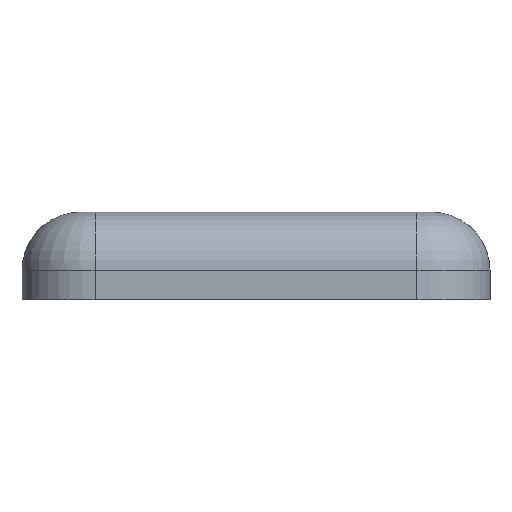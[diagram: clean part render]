
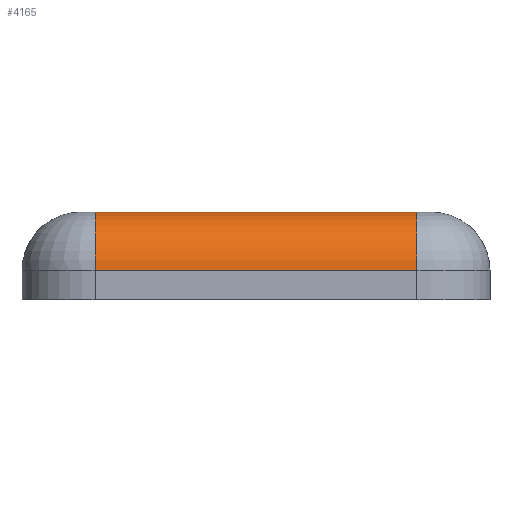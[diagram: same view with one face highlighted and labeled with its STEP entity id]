
A CAD part, front view. The second image highlights one B-rep face of the part: STEP entity #4165.
In plain terms, the highlighted cylindrical face has radius 2 mm (diameter 4 mm), a partial arc.
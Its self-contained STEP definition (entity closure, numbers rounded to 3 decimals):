
#236 = EDGE_CURVE ( 'NONE', #1410, #1966, #3080, .T. ) ;
#552 = FACE_OUTER_BOUND ( 'NONE', #5704, .T. ) ;
#610 = DIRECTION ( 'NONE',  ( -1., 0., 0. ) ) ;
#738 = AXIS2_PLACEMENT_3D ( 'NONE', #3183, #610, #1827 ) ;
#759 = DIRECTION ( 'NONE',  ( -1., 0., 0. ) ) ;
#812 = DIRECTION ( 'NONE',  ( 1., 0., 0. ) ) ;
#875 = EDGE_CURVE ( 'NONE', #1773, #1966, #1363, .T. ) ;
#983 = ORIENTED_EDGE ( 'NONE', *, *, #875, .T. ) ;
#1016 = CYLINDRICAL_SURFACE ( 'NONE', #738, 2. ) ;
#1108 = CIRCLE ( 'NONE', #5684, 2. ) ;
#1363 = CIRCLE ( 'NONE', #2960, 2. ) ;
#1374 = CARTESIAN_POINT ( 'NONE',  ( 5.5, -14.963, 1. ) ) ;
#1410 = VERTEX_POINT ( 'NONE', #4916 ) ;
#1596 = CARTESIAN_POINT ( 'NONE',  ( 5.5, -12.963, 1. ) ) ;
#1773 = VERTEX_POINT ( 'NONE', #1374 ) ;
#1827 = DIRECTION ( 'NONE',  ( 0., 0., 1. ) ) ;
#1966 = VERTEX_POINT ( 'NONE', #2926 ) ;
#1971 = VERTEX_POINT ( 'NONE', #5138 ) ;
#2081 = DIRECTION ( 'NONE',  ( -1., 0., 0. ) ) ;
#2509 = EDGE_CURVE ( 'NONE', #1773, #1971, #5712, .T. ) ;
#2568 = DIRECTION ( 'NONE',  ( 0., 0., -1. ) ) ;
#2926 = CARTESIAN_POINT ( 'NONE',  ( 5.5, -12.963, 3. ) ) ;
#2960 = AXIS2_PLACEMENT_3D ( 'NONE', #1596, #759, #5225 ) ;
#3050 = DIRECTION ( 'NONE',  ( 1., 0., 0. ) ) ;
#3080 = LINE ( 'NONE', #3872, #3147 ) ;
#3147 = VECTOR ( 'NONE', #3050, 1000. ) ;
#3183 = CARTESIAN_POINT ( 'NONE',  ( 5.5, -12.963, 1. ) ) ;
#3487 = CARTESIAN_POINT ( 'NONE',  ( -5.5, -14.963, 1. ) ) ;
#3653 = VECTOR ( 'NONE', #2081, 1000. ) ;
#3872 = CARTESIAN_POINT ( 'NONE',  ( 5.5, -12.963, 3. ) ) ;
#3984 = EDGE_CURVE ( 'NONE', #1410, #1971, #1108, .T. ) ;
#4000 = ORIENTED_EDGE ( 'NONE', *, *, #236, .F. ) ;
#4060 = ORIENTED_EDGE ( 'NONE', *, *, #2509, .F. ) ;
#4165 = ADVANCED_FACE ( 'NONE', ( #552 ), #1016, .T. ) ;
#4916 = CARTESIAN_POINT ( 'NONE',  ( -5.5, -12.963, 3. ) ) ;
#5138 = CARTESIAN_POINT ( 'NONE',  ( -5.5, -14.963, 1. ) ) ;
#5225 = DIRECTION ( 'NONE',  ( 0., 0., 1. ) ) ;
#5251 = CARTESIAN_POINT ( 'NONE',  ( -5.5, -12.963, 1. ) ) ;
#5554 = ORIENTED_EDGE ( 'NONE', *, *, #3984, .T. ) ;
#5684 = AXIS2_PLACEMENT_3D ( 'NONE', #5251, #812, #2568 ) ;
#5704 = EDGE_LOOP ( 'NONE', ( #5554, #4060, #983, #4000 ) ) ;
#5712 = LINE ( 'NONE', #3487, #3653 ) ;
